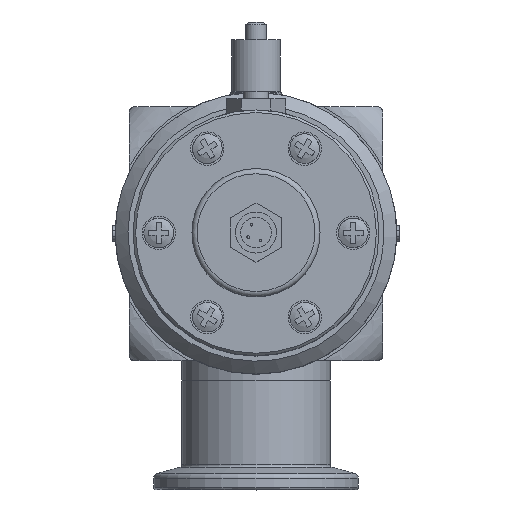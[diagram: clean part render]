
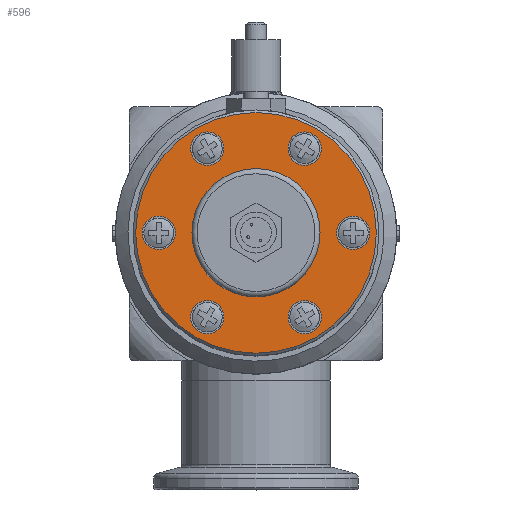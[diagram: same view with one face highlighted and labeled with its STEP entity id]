
A CAD part, top view. The second image highlights one B-rep face of the part: STEP entity #596.
In plain terms, the highlighted planar face has unit normal (0, 0, 1).
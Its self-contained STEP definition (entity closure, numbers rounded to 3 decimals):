
#596 = ADVANCED_FACE( '', ( #1200, #1201, #1202, #1203, #1204, #1205, #1206, #1207 ), #1208, .T. );
#1200 = FACE_BOUND( '', #1964, .T. );
#1201 = FACE_BOUND( '', #1965, .T. );
#1202 = FACE_BOUND( '', #1966, .T. );
#1203 = FACE_BOUND( '', #1967, .T. );
#1204 = FACE_BOUND( '', #1968, .T. );
#1205 = FACE_BOUND( '', #1969, .T. );
#1206 = FACE_OUTER_BOUND( '', #1970, .T. );
#1207 = FACE_BOUND( '', #1971, .T. );
#1208 = PLANE( '', #1972 );
#1964 = EDGE_LOOP( '', ( #2956 ) );
#1965 = EDGE_LOOP( '', ( #2957 ) );
#1966 = EDGE_LOOP( '', ( #2958 ) );
#1967 = EDGE_LOOP( '', ( #2959 ) );
#1968 = EDGE_LOOP( '', ( #2960 ) );
#1969 = EDGE_LOOP( '', ( #2961 ) );
#1970 = EDGE_LOOP( '', ( #2962 ) );
#1971 = EDGE_LOOP( '', ( #2963 ) );
#1972 = AXIS2_PLACEMENT_3D( '', #2964, #2965, #2966 );
#2956 = ORIENTED_EDGE( '', *, *, #4054, .T. );
#2957 = ORIENTED_EDGE( '', *, *, #3857, .T. );
#2958 = ORIENTED_EDGE( '', *, *, #3929, .T. );
#2959 = ORIENTED_EDGE( '', *, *, #4055, .T. );
#2960 = ORIENTED_EDGE( '', *, *, #3817, .T. );
#2961 = ORIENTED_EDGE( '', *, *, #4056, .T. );
#2962 = ORIENTED_EDGE( '', *, *, #3969, .T. );
#2963 = ORIENTED_EDGE( '', *, *, #4057, .T. );
#2964 = CARTESIAN_POINT( '', ( -24., 0., 12. ) );
#2965 = DIRECTION( '', ( 0., 0., 1. ) );
#2966 = DIRECTION( '', ( 1., 0., 0. ) );
#3817 = EDGE_CURVE( '', #4314, #4314, #4315, .T. );
#3857 = EDGE_CURVE( '', #4383, #4383, #4384, .T. );
#3929 = EDGE_CURVE( '', #4505, #4505, #4506, .T. );
#3969 = EDGE_CURVE( '', #4566, #4566, #4567, .T. );
#4054 = EDGE_CURVE( '', #4695, #4695, #4696, .T. );
#4055 = EDGE_CURVE( '', #4697, #4697, #4698, .T. );
#4056 = EDGE_CURVE( '', #4699, #4699, #4700, .T. );
#4057 = EDGE_CURVE( '', #4701, #4701, #4702, .T. );
#4314 = VERTEX_POINT( '', #5038 );
#4315 = CIRCLE( '', #5039, 3.25 );
#4383 = VERTEX_POINT( '', #5129 );
#4384 = CIRCLE( '', #5130, 3.25 );
#4505 = VERTEX_POINT( '', #5449 );
#4506 = CIRCLE( '', #5450, 3.25 );
#4566 = VERTEX_POINT( '', #5604 );
#4567 = CIRCLE( '', #5605, 23.5 );
#4695 = VERTEX_POINT( '', #5906 );
#4696 = CIRCLE( '', #5907, 3.25 );
#4697 = VERTEX_POINT( '', #5908 );
#4698 = CIRCLE( '', #5909, 3.25 );
#4699 = VERTEX_POINT( '', #5910 );
#4700 = CIRCLE( '', #5911, 3.25 );
#4701 = VERTEX_POINT( '', #5912 );
#4702 = CIRCLE( '', #5913, 12.5 );
#5038 = CARTESIAN_POINT( '', ( 9.5, -19.704, 12. ) );
#5039 = AXIS2_PLACEMENT_3D( '', #6797, #6798, #6799 );
#5129 = CARTESIAN_POINT( '', ( -9.5, 13.204, 12. ) );
#5130 = AXIS2_PLACEMENT_3D( '', #6846, #6847, #6848 );
#5449 = CARTESIAN_POINT( '', ( -19., -3.25, 12. ) );
#5450 = AXIS2_PLACEMENT_3D( '', #6946, #6947, #6948 );
#5604 = CARTESIAN_POINT( '', ( 23.5, 0., 12. ) );
#5605 = AXIS2_PLACEMENT_3D( '', #6993, #6994, #6995 );
#5906 = CARTESIAN_POINT( '', ( 9.5, 13.204, 12. ) );
#5907 = AXIS2_PLACEMENT_3D( '', #7108, #7109, #7110 );
#5908 = CARTESIAN_POINT( '', ( -9.5, -19.704, 12. ) );
#5909 = AXIS2_PLACEMENT_3D( '', #7111, #7112, #7113 );
#5910 = CARTESIAN_POINT( '', ( 19., -3.25, 12. ) );
#5911 = AXIS2_PLACEMENT_3D( '', #7114, #7115, #7116 );
#5912 = CARTESIAN_POINT( '', ( -12.5, 0., 12. ) );
#5913 = AXIS2_PLACEMENT_3D( '', #7117, #7118, #7119 );
#6797 = CARTESIAN_POINT( '', ( 9.5, -16.454, 12. ) );
#6798 = DIRECTION( '', ( 0., 0., -1. ) );
#6799 = DIRECTION( '', ( 0., -1., 0. ) );
#6846 = CARTESIAN_POINT( '', ( -9.5, 16.454, 12. ) );
#6847 = DIRECTION( '', ( 0., 0., -1. ) );
#6848 = DIRECTION( '', ( 0., -1., 0. ) );
#6946 = CARTESIAN_POINT( '', ( -19., 0., 12. ) );
#6947 = DIRECTION( '', ( 0., 0., -1. ) );
#6948 = DIRECTION( '', ( 0., -1., 0. ) );
#6993 = CARTESIAN_POINT( '', ( 0., 0., 12. ) );
#6994 = DIRECTION( '', ( 0., 0., 1. ) );
#6995 = DIRECTION( '', ( 1., 0., 0. ) );
#7108 = CARTESIAN_POINT( '', ( 9.5, 16.454, 12. ) );
#7109 = DIRECTION( '', ( 0., 0., -1. ) );
#7110 = DIRECTION( '', ( 0., -1., 0. ) );
#7111 = CARTESIAN_POINT( '', ( -9.5, -16.454, 12. ) );
#7112 = DIRECTION( '', ( 0., 0., -1. ) );
#7113 = DIRECTION( '', ( 0., -1., 0. ) );
#7114 = CARTESIAN_POINT( '', ( 19., 0., 12. ) );
#7115 = DIRECTION( '', ( 0., 0., -1. ) );
#7116 = DIRECTION( '', ( 0., -1., 0. ) );
#7117 = CARTESIAN_POINT( '', ( 0., 0., 12. ) );
#7118 = DIRECTION( '', ( 0., 0., -1. ) );
#7119 = DIRECTION( '', ( -1., 0., 0. ) );
